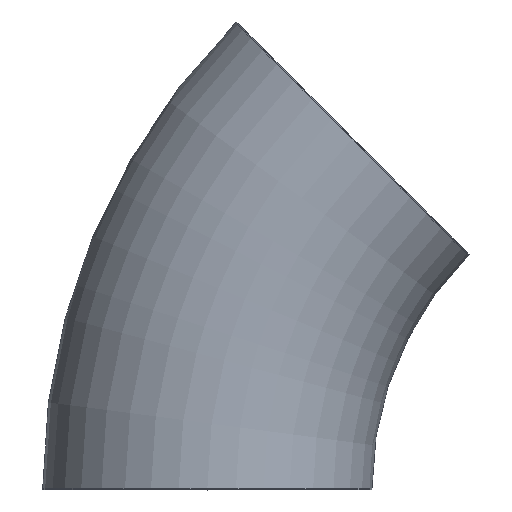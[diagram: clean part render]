
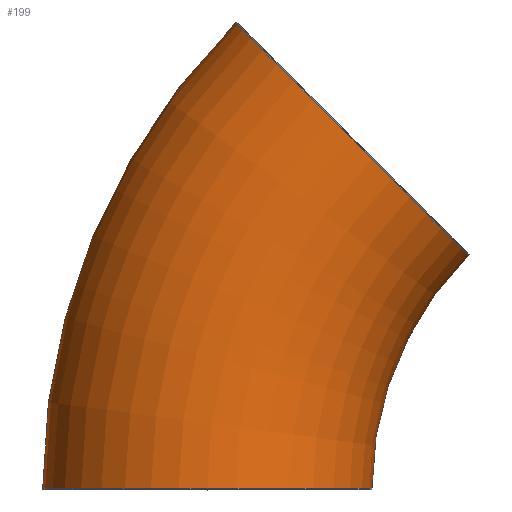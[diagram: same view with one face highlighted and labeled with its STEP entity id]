
A CAD part, top view. The second image highlights one B-rep face of the part: STEP entity #199.
In plain terms, the highlighted toroidal (fillet/blend) face has major radius 304.8 mm and minor radius 101.6 mm.
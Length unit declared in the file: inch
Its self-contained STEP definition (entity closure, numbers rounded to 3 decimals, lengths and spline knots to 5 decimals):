
#23 = ORIENTED_EDGE ( 'NONE', *, *, #378, .T. ) ;
#39 = CARTESIAN_POINT ( 'NONE',  ( 0., 0.03, 4. ) ) ;
#57 = EDGE_CURVE ( 'NONE', #60, #139, #270, .T. ) ;
#58 = CIRCLE ( 'NONE', #485, 4. ) ;
#60 = VERTEX_POINT ( 'NONE', #404 ) ;
#92 = DIRECTION ( 'NONE',  ( -1., 0., 0. ) ) ;
#109 = DIRECTION ( 'NONE',  ( 0., 0., -1. ) ) ;
#116 = CARTESIAN_POINT ( 'NONE',  ( 12., 0.03, 0. ) ) ;
#131 = ORIENTED_EDGE ( 'NONE', *, *, #495, .F. ) ;
#135 = CIRCLE ( 'NONE', #261, 4. ) ;
#136 = VERTEX_POINT ( 'NONE', #263 ) ;
#139 = VERTEX_POINT ( 'NONE', #267 ) ;
#148 = EDGE_CURVE ( 'NONE', #395, #339, #58, .T. ) ;
#173 = DIRECTION ( 'NONE',  ( -1., 0., 0. ) ) ;
#176 = DIRECTION ( 'NONE',  ( 0., 0., -1. ) ) ;
#178 = CARTESIAN_POINT ( 'NONE',  ( 12., 0.03, 0. ) ) ;
#182 = DIRECTION ( 'NONE',  ( 0., 0., 1. ) ) ;
#187 = DIRECTION ( 'NONE',  ( 0., 1., 0. ) ) ;
#189 = CARTESIAN_POINT ( 'NONE',  ( 0., 0.03, 0. ) ) ;
#199 = ADVANCED_FACE ( 'NONE', ( #445 ), #232, .T. ) ;
#200 = AXIS2_PLACEMENT_3D ( 'NONE', #178, #176, #173 ) ;
#204 = AXIS2_PLACEMENT_3D ( 'NONE', #116, #109, #92 ) ;
#205 = ORIENTED_EDGE ( 'NONE', *, *, #370, .F. ) ;
#212 = ORIENTED_EDGE ( 'NONE', *, *, #148, .T. ) ;
#232 = TOROIDAL_SURFACE ( 'NONE', #200, 12., 4. ) ;
#244 = CIRCLE ( 'NONE', #204, 16. ) ;
#256 = ORIENTED_EDGE ( 'NONE', *, *, #57, .T. ) ;
#261 = AXIS2_PLACEMENT_3D ( 'NONE', #398, #396, #392 ) ;
#263 = CARTESIAN_POINT ( 'NONE',  ( 0.68629, 11.34371, 0. ) ) ;
#264 = CARTESIAN_POINT ( 'NONE',  ( -4., 0.03, 0. ) ) ;
#267 = CARTESIAN_POINT ( 'NONE',  ( 6.34315, 5.68685, 0. ) ) ;
#270 = CIRCLE ( 'NONE', #402, 8. ) ;
#283 = AXIS2_PLACEMENT_3D ( 'NONE', #315, #314, #311 ) ;
#291 = CIRCLE ( 'NONE', #283, 4. ) ;
#311 = DIRECTION ( 'NONE',  ( 0., 0., 1. ) ) ;
#314 = DIRECTION ( 'NONE',  ( 0., 1., 0. ) ) ;
#315 = CARTESIAN_POINT ( 'NONE',  ( 0., 0.03, 0. ) ) ;
#339 = VERTEX_POINT ( 'NONE', #39 ) ;
#347 = DIRECTION ( 'NONE',  ( -1., 0., 0. ) ) ;
#351 = DIRECTION ( 'NONE',  ( 0., 0., -1. ) ) ;
#354 = CARTESIAN_POINT ( 'NONE',  ( 12., 0.03, 0. ) ) ;
#357 = EDGE_LOOP ( 'NONE', ( #131, #212, #23, #256, #205 ) ) ;
#370 = EDGE_CURVE ( 'NONE', #136, #139, #135, .T. ) ;
#378 = EDGE_CURVE ( 'NONE', #339, #60, #291, .T. ) ;
#392 = DIRECTION ( 'NONE',  ( 0., 0., 1. ) ) ;
#395 = VERTEX_POINT ( 'NONE', #264 ) ;
#396 = DIRECTION ( 'NONE',  ( 0.707, 0.707, 0. ) ) ;
#398 = CARTESIAN_POINT ( 'NONE',  ( 3.51472, 8.51528, 0. ) ) ;
#402 = AXIS2_PLACEMENT_3D ( 'NONE', #354, #351, #347 ) ;
#404 = CARTESIAN_POINT ( 'NONE',  ( 4., 0.03, 0. ) ) ;
#445 = FACE_OUTER_BOUND ( 'NONE', #357, .T. ) ;
#485 = AXIS2_PLACEMENT_3D ( 'NONE', #189, #187, #182 ) ;
#495 = EDGE_CURVE ( 'NONE', #395, #136, #244, .T. ) ;
